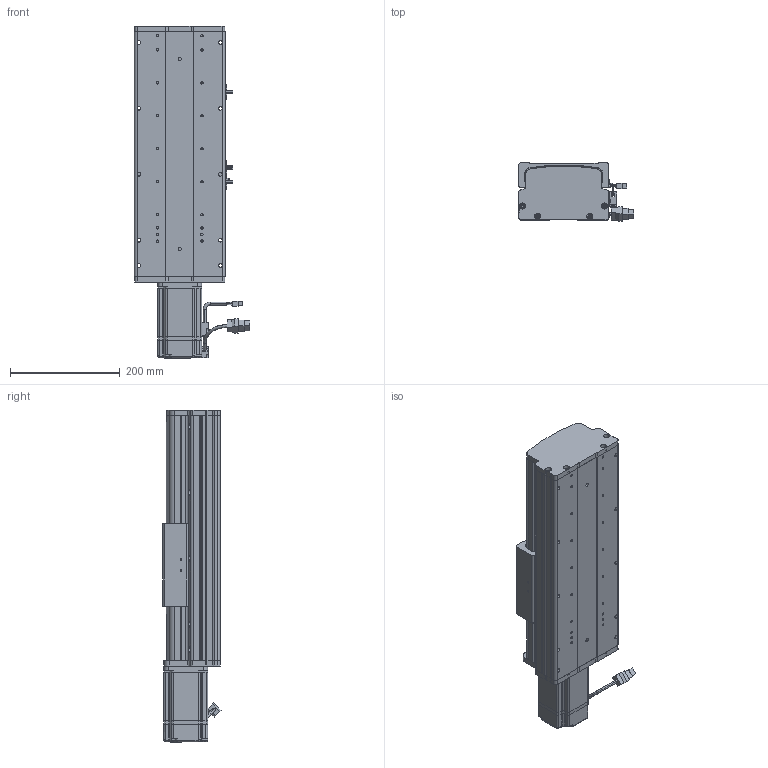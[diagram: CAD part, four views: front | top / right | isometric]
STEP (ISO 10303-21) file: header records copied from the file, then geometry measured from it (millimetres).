
FILE_DESCRIPTION (( 'STEP AP214' ), '1' );
FILE_NAME ('KSD165S-S150-MN-CM .STEP', '2017-08-07T08:02:43', ( '微软用户' ), ( '微软中国' ), 'SwSTEP 2.0', 'SolidWorks 2014', '' );
FILE_SCHEMA (( 'AUTOMOTIVE_DESIGN' ));
Length unit declared in the file: millimetre
Products named in the file (12): KSD165模组-防尘盖1-150行程-直连不带电机座; KSD165模组底板-150行程-直连不带电机座; KSD165模组-直连不带电机座电机连接板; KSD165耀郪-佪裝-滅袉菜-3 -; ECMA-CX0807ES; C44ㄜ1912WP; 覜茼え68遵圉猾敕; U倰嫖萇假蚾璃; U倰嫖萇EEㄜSX672; KSD165耀郪-綴傷啣1; KSD165模组-丝杆滑动座-最新版; KSD165S-S150-MN-CM 
Assembly tree (15 placements, depth 2):
  KSD165S-S150-MN-CM 
    KSD165模组-丝杆滑动座-最新版
    KSD165耀郪-綴傷啣1
    U倰嫖萇EEㄜSX672  x3
    U倰嫖萇假蚾璃  x3
    覜茼え68遵圉猾敕
    C44ㄜ1912WP
    ECMA-CX0807ES
    KSD165耀郪-佪裝-滅袉菜-3 -
    KSD165模组-直连不带电机座电机连接板
    KSD165模组底板-150行程-直连不带电机座
    KSD165模组-防尘盖1-150行程-直连不带电机座
Bounding box: 209.77 x 105.74 x 604.3 mm (x, y, z)
Volume: 4022627.1 mm3; surface area: 853864.2 mm2
Topology: 16 solids, 16 shells, 1561 faces, 4286 edges, 2752 vertices
Faces by surface type: cylinder 737, plane 655, cone 106, bspline 63
Entity records: 58997 total; most frequent: CARTESIAN_POINT 17424, ORIENTED_EDGE 7248, DIRECTION 6652, EDGE_CURVE 3624, AXIS2_PLACEMENT_3D 2433, VERTEX_POINT 2344, VECTOR 1786, LINE 1786
